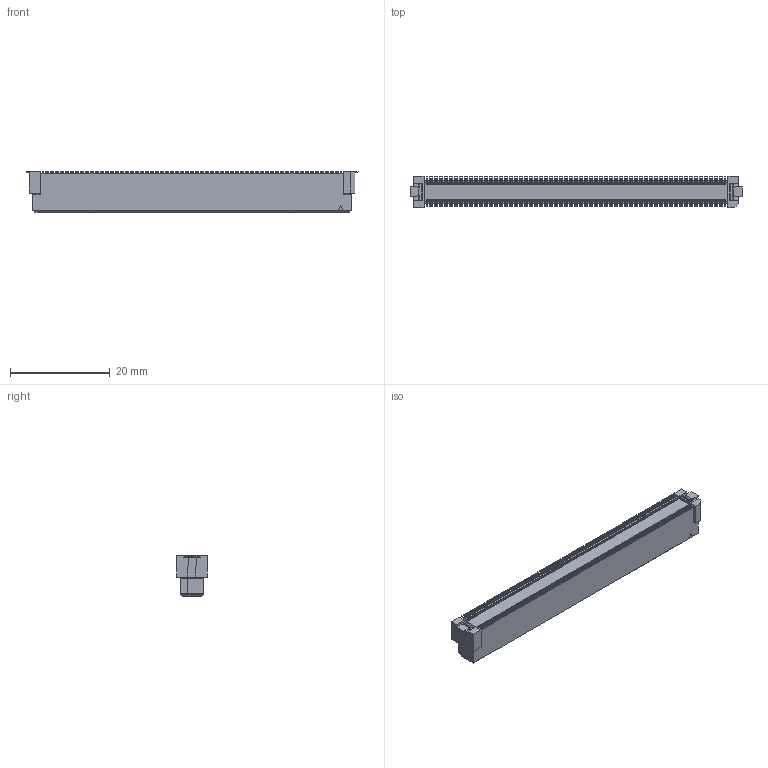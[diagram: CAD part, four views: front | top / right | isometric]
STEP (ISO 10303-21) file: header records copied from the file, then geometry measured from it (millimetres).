
FILE_DESCRIPTION(('Creo Elements/Direct Modeling STEP Export'),'2;1');
FILE_NAME('DT10-240S-10-TR-T.stp','2017-08-11T10:17:03',(''),(''),'Creo Elements/Direct Modeling STEP processor for AP214 (Solid Model)','Creo Elements/Direct Modeling 19.0F 14-Feb-2017 (C) Parametric Technology GmbH','');
FILE_SCHEMA(('AUTOMOTIVE_DESIGN { 1 0 10303 214 1 1 1 1 }'));
Products named in the file (2): DT10-240S-10-TR-T
Assembly tree (1 placements, depth 2):
  DT10-240S-10-TR-T
    DT10-240S-10-TR-T
Bounding box: 66.4 x 6.2 x 8.18 mm (x, y, z)
Volume: 2062 mm3; surface area: 3643.4 mm2
Topology: 1 solids, 1 shells, 8291 faces, 23432 edges, 15626 vertices
Faces by surface type: plane 7079, cylinder 1212
Entity records: 262437 total; most frequent: ORIENTED_EDGE 46864, CARTESIAN_POINT 46638, DIRECTION 41971, EDGE_CURVE 23432, VECTOR 20053, LINE 20053, VERTEX_POINT 15626, AXIS2_PLACEMENT_3D 10959
